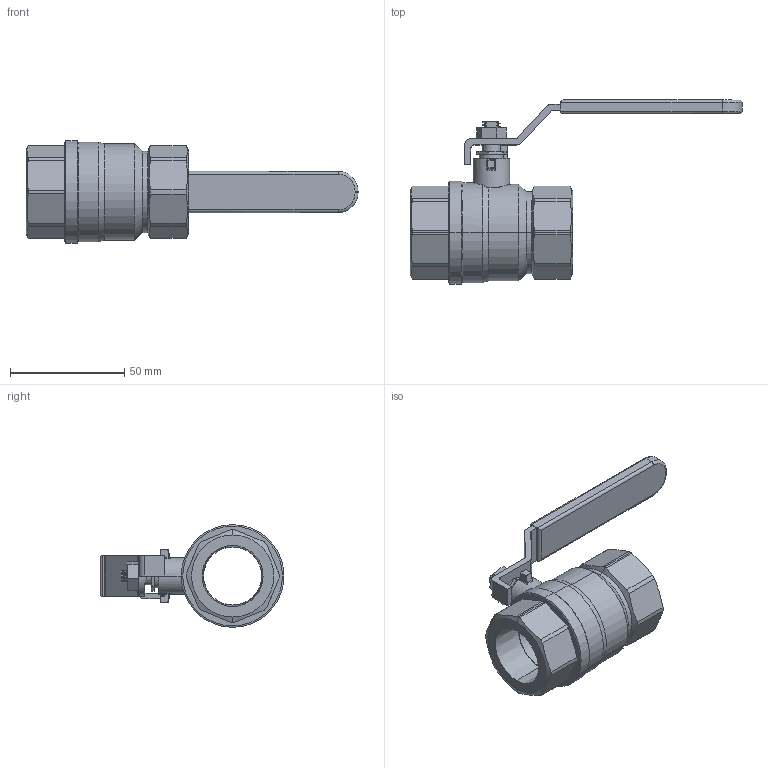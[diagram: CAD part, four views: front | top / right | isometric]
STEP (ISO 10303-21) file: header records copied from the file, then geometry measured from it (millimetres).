
FILE_DESCRIPTION (( 'STEP AP203' ), '1' );
FILE_NAME ('BGF-8.STEP', '2021-06-23T15:47:19', ( 'Owner' ), ( '' ), 'SwSTEP 2.0', 'SolidWorks 2017', '' );
FILE_SCHEMA (( 'CONFIG_CONTROL_DESIGN' ));
Length unit declared in the file: inch
Products named in the file (2): BGF-8
Bounding box: 145.3 x 80.52 x 44.96 mm (x, y, z)
Volume: 70401.1 mm3; surface area: 24241.9 mm2
Topology: 2 solids, 2 shells, 281 faces, 734 edges, 461 vertices
Faces by surface type: cylinder 99, plane 78, bspline 52, cone 33, torus 11, sphere 8
Entity records: 17464 total; most frequent: CARTESIAN_POINT 11005, ORIENTED_EDGE 1460, DIRECTION 1167, EDGE_CURVE 730, VERTEX_POINT 461, AXIS2_PLACEMENT_3D 440, EDGE_LOOP 295, LINE 287
